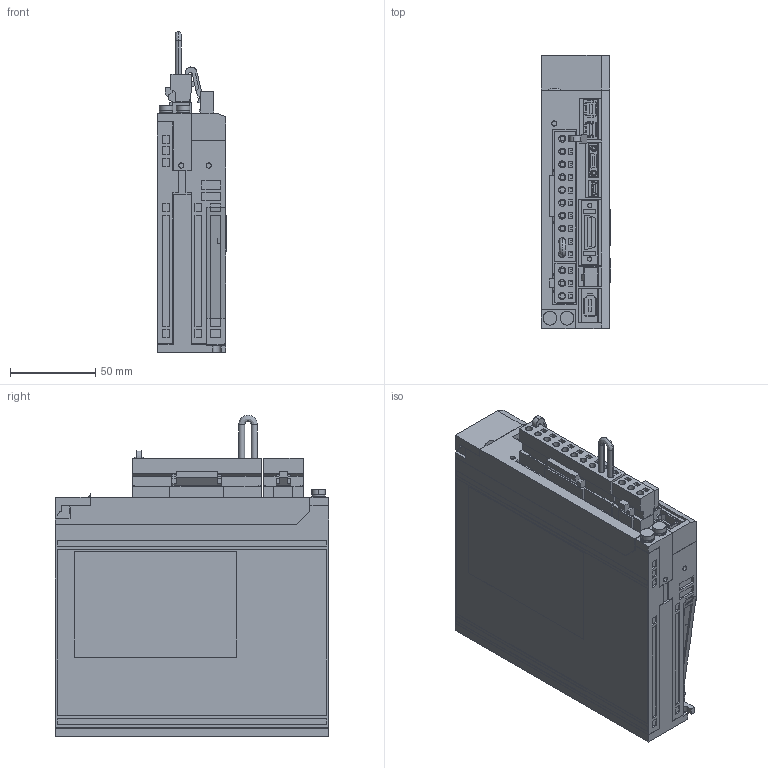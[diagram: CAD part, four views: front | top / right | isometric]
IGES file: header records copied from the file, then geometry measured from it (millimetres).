
Start section: SolidWorks IGES file using analytic representation for surfaces
Global section: file name: D:\YASKAWA\sgdv_r90a2_a.IGS; native system: SolidWorks 2006 by SolidWorks Corporation; preprocessor: SolidWorks 2006 by SolidWorks Corporation; author: yamanouchi; date: 120907.132128; units: millimetre
Bounding box: 40.5 x 160 x 188 mm (x, y, z)
Surface area: 134869.4 mm2 (no closed solid volume)
Topology: 0 solids, 0 shells, 1917 faces, 14455 edges, 14455 vertices
Faces by surface type: bspline 1735, revolution 182
